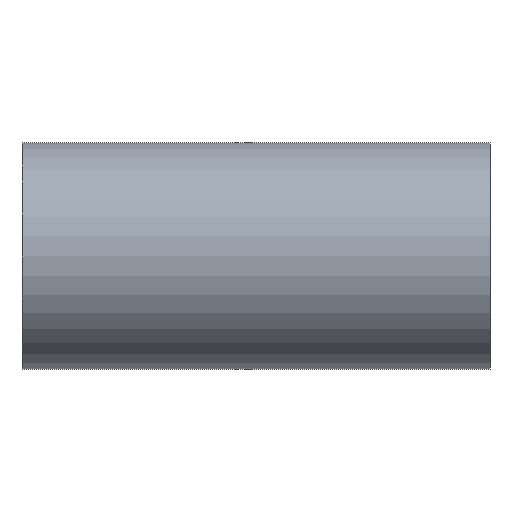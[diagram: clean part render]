
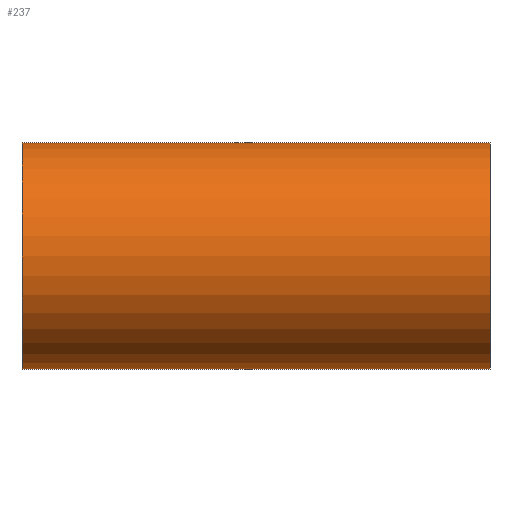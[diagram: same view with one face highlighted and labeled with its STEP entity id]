
A CAD part, front view. The second image highlights one B-rep face of the part: STEP entity #237.
In plain terms, the highlighted cylindrical face has radius 50.8 mm (diameter 101.6 mm), a partial arc.
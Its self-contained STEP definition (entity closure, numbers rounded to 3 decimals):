
#4 = DIRECTION ( 'NONE',  ( 0., 0., -1. ) ) ;
#25 = CARTESIAN_POINT ( 'NONE',  ( -104.8, 0., 50.8 ) ) ;
#28 = VERTEX_POINT ( 'NONE', #25 ) ;
#31 = CARTESIAN_POINT ( 'NONE',  ( 104.8, 0., -50.8 ) ) ;
#43 = VERTEX_POINT ( 'NONE', #31 ) ;
#49 = EDGE_CURVE ( 'NONE', #28, #294, #330, .T. ) ;
#56 = CARTESIAN_POINT ( 'NONE',  ( -104.8, 0., 50.8 ) ) ;
#67 = ORIENTED_EDGE ( 'NONE', *, *, #475, .F. ) ;
#69 = LINE ( 'NONE', #56, #440 ) ;
#73 = CARTESIAN_POINT ( 'NONE',  ( -104.8, 0., -50.8 ) ) ;
#95 = DIRECTION ( 'NONE',  ( -1., 0., 0. ) ) ;
#98 = EDGE_CURVE ( 'NONE', #43, #439, #340, .T. ) ;
#115 = AXIS2_PLACEMENT_3D ( 'NONE', #180, #95, #4 ) ;
#123 = ORIENTED_EDGE ( 'NONE', *, *, #98, .T. ) ;
#154 = CARTESIAN_POINT ( 'NONE',  ( 104.8, 0., 50.8 ) ) ;
#180 = CARTESIAN_POINT ( 'NONE',  ( 104.8, 0., 0. ) ) ;
#230 = VECTOR ( 'NONE', #264, 1000. ) ;
#237 = ADVANCED_FACE ( 'NONE', ( #395 ), #320, .T. ) ;
#247 = ORIENTED_EDGE ( 'NONE', *, *, #607, .T. ) ;
#250 = CARTESIAN_POINT ( 'NONE',  ( -104.8, 0., 0. ) ) ;
#253 = DIRECTION ( 'NONE',  ( 1., 0., 0. ) ) ;
#264 = DIRECTION ( 'NONE',  ( 1., 0., 0. ) ) ;
#279 = AXIS2_PLACEMENT_3D ( 'NONE', #326, #373, #419 ) ;
#294 = VERTEX_POINT ( 'NONE', #609 ) ;
#320 = CYLINDRICAL_SURFACE ( 'NONE', #279, 50.8 ) ;
#326 = CARTESIAN_POINT ( 'NONE',  ( -104.8, 0., 0. ) ) ;
#328 = DIRECTION ( 'NONE',  ( 1., 0., 0. ) ) ;
#330 = CIRCLE ( 'NONE', #516, 50.8 ) ;
#340 = CIRCLE ( 'NONE', #115, 50.8 ) ;
#345 = LINE ( 'NONE', #73, #230 ) ;
#373 = DIRECTION ( 'NONE',  ( 1., 0., 0. ) ) ;
#395 = FACE_OUTER_BOUND ( 'NONE', #464, .T. ) ;
#411 = DIRECTION ( 'NONE',  ( 0., 0., -1. ) ) ;
#419 = DIRECTION ( 'NONE',  ( 0., 0., -1. ) ) ;
#439 = VERTEX_POINT ( 'NONE', #154 ) ;
#440 = VECTOR ( 'NONE', #328, 1000. ) ;
#464 = EDGE_LOOP ( 'NONE', ( #67, #531, #247, #123 ) ) ;
#475 = EDGE_CURVE ( 'NONE', #28, #439, #69, .T. ) ;
#516 = AXIS2_PLACEMENT_3D ( 'NONE', #250, #253, #411 ) ;
#531 = ORIENTED_EDGE ( 'NONE', *, *, #49, .T. ) ;
#607 = EDGE_CURVE ( 'NONE', #294, #43, #345, .T. ) ;
#609 = CARTESIAN_POINT ( 'NONE',  ( -104.8, 0., -50.8 ) ) ;
